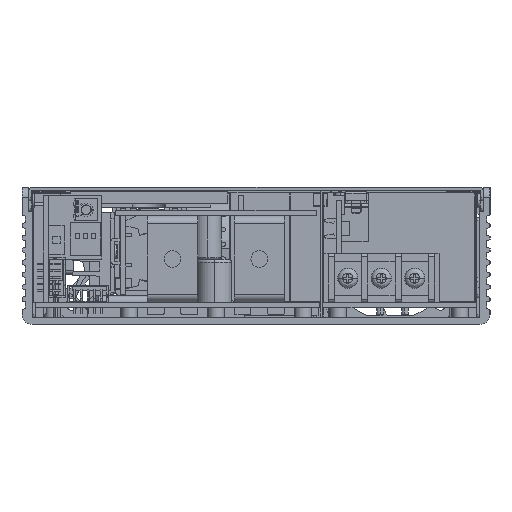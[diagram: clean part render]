
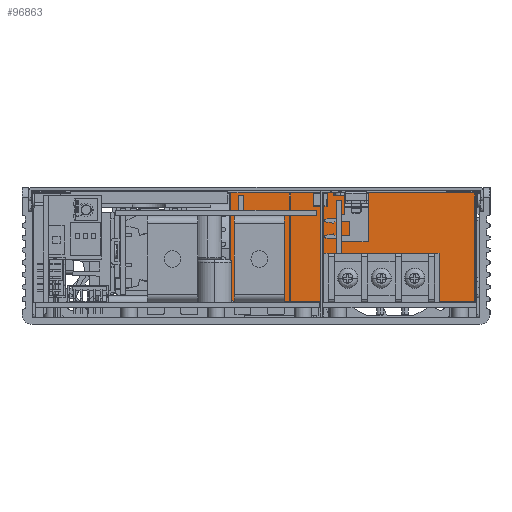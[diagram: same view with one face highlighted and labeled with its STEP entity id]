
A CAD part, left-side view. The second image highlights one B-rep face of the part: STEP entity #96863.
In plain terms, the highlighted planar face has unit normal (-1, 0, 0).
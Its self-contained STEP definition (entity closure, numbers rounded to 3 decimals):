
#96414=DIRECTION('',(0.,-1.,0.));
#96415=VECTOR('',#96414,73.499);
#96416=CARTESIAN_POINT('',(-1310.915,-144.73,6.6));
#96417=LINE('',#96416,#96415);
#96498=DIRECTION('',(0.,0.,1.));
#96499=VECTOR('',#96498,4.);
#96500=CARTESIAN_POINT('',(-1310.915,-169.726,35.6));
#96501=LINE('',#96500,#96499);
#96512=DIRECTION('',(0.,-1.,0.));
#96513=VECTOR('',#96512,4.);
#96514=CARTESIAN_POINT('',(-1310.915,-169.726,35.6));
#96515=LINE('',#96514,#96513);
#96519=DIRECTION('',(0.,0.,1.));
#96520=VECTOR('',#96519,4.);
#96521=CARTESIAN_POINT('',(-1310.915,-173.726,35.6));
#96522=LINE('',#96521,#96520);
#96526=DIRECTION('',(0.,-1.,0.));
#96527=VECTOR('',#96526,44.502);
#96528=CARTESIAN_POINT('',(-1310.915,-173.726,39.6));
#96529=LINE('',#96528,#96527);
#96533=DIRECTION('',(0.,0.,-1.));
#96534=VECTOR('',#96533,33.);
#96535=CARTESIAN_POINT('',(-1310.915,-218.228,39.6));
#96536=LINE('',#96535,#96534);
#96540=DIRECTION('',(0.,-1.,0.));
#96541=VECTOR('',#96540,24.996);
#96542=CARTESIAN_POINT('',(-1310.915,-144.73,39.6));
#96543=LINE('',#96542,#96541);
#96582=DIRECTION('',(0.,0.,-1.));
#96583=VECTOR('',#96582,33.);
#96584=CARTESIAN_POINT('',(-1310.915,-144.73,39.6));
#96585=LINE('',#96584,#96583);
#96605=CARTESIAN_POINT('',(-1310.915,-173.726,35.6));
#96606=VERTEX_POINT('',#96605);
#96607=CARTESIAN_POINT('',(-1310.915,-169.726,35.6));
#96608=VERTEX_POINT('',#96607);
#96609=CARTESIAN_POINT('',(-1310.915,-173.726,39.6));
#96610=VERTEX_POINT('',#96609);
#96611=CARTESIAN_POINT('',(-1310.915,-218.228,39.6));
#96612=VERTEX_POINT('',#96611);
#96619=CARTESIAN_POINT('',(-1310.915,-218.229,6.6));
#96620=VERTEX_POINT('',#96619);
#96623=CARTESIAN_POINT('',(-1310.915,-144.73,6.6));
#96624=VERTEX_POINT('',#96623);
#96633=CARTESIAN_POINT('',(-1310.915,-144.73,39.6));
#96634=VERTEX_POINT('',#96633);
#96635=CARTESIAN_POINT('',(-1310.915,-169.726,39.6));
#96636=VERTEX_POINT('',#96635);
#96846=CARTESIAN_POINT('',(-1310.915,-218.476,6.6));
#96847=DIRECTION('',(1.,0.,0.));
#96848=DIRECTION('',(0.,1.,0.));
#96849=AXIS2_PLACEMENT_3D('',#96846,#96847,#96848);
#96850=PLANE('',#96849);
#96851=ORIENTED_EDGE('',*,*,#96669,.T.);
#96852=ORIENTED_EDGE('',*,*,#96684,.T.);
#96853=ORIENTED_EDGE('',*,*,#96698,.T.);
#96855=ORIENTED_EDGE('',*,*,#96854,.T.);
#96856=ORIENTED_EDGE('',*,*,#96756,.F.);
#96858=ORIENTED_EDGE('',*,*,#96857,.F.);
#96859=ORIENTED_EDGE('',*,*,#96827,.T.);
#96860=ORIENTED_EDGE('',*,*,#96840,.F.);
#96861=EDGE_LOOP('',(#96851,#96852,#96853,#96855,#96856,#96858,#96859,#96860));
#96862=FACE_OUTER_BOUND('',#96861,.F.);
#96669=EDGE_CURVE('',#96608,#96606,#96515,.T.);
#96684=EDGE_CURVE('',#96606,#96610,#96522,.T.);
#96698=EDGE_CURVE('',#96610,#96612,#96529,.T.);
#96756=EDGE_CURVE('',#96624,#96620,#96417,.T.);
#96827=EDGE_CURVE('',#96634,#96636,#96543,.T.);
#96840=EDGE_CURVE('',#96608,#96636,#96501,.T.);
#96854=EDGE_CURVE('',#96612,#96620,#96536,.T.);
#96857=EDGE_CURVE('',#96634,#96624,#96585,.T.);
#96863=ADVANCED_FACE('',(#96862),#96850,.F.);
